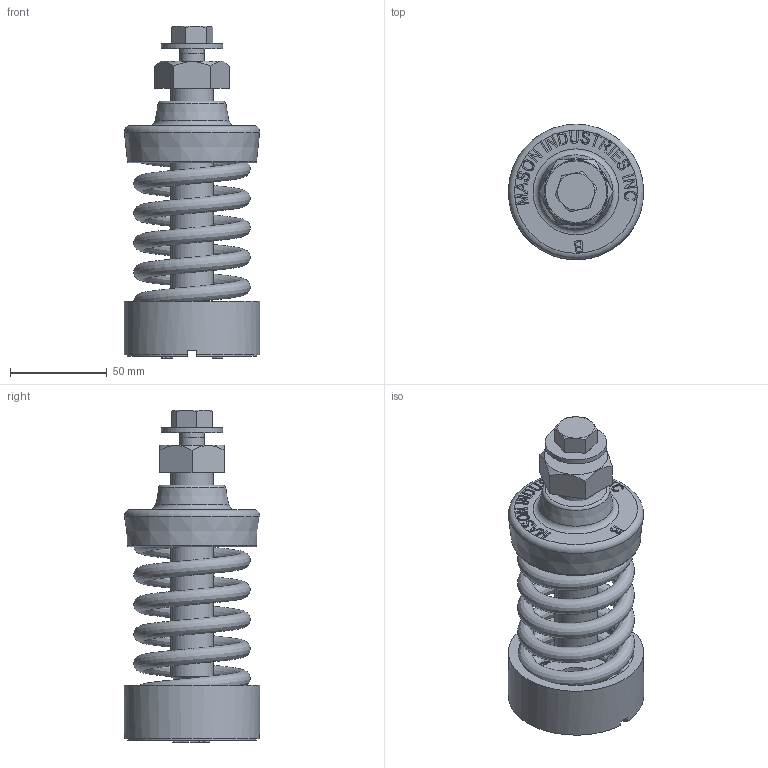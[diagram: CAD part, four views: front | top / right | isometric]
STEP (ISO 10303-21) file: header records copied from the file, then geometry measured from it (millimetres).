
FILE_DESCRIPTION(/* description */ (''),/* implementation_level */ '2;1');
FILE_NAME(/* name */ 'C:\2014_Work\Designs\SLF-B-450.stp',/* time_stamp */ '2014-05-01T21:35:57-04:00',/* author */ ('mleuck'),/* organization */ (''),/* preprocessor_version */ 'ST-DEVELOPER v15.2',/* originating_system */ 'Autodesk Inventor 2014',/* authorisation */ '');
FILE_SCHEMA (('AUTOMOTIVE_DESIGN { 1 0 10303 214 3 1 1 }'));
Length unit declared in the file: inch
Products named in the file (10): A-19773-1 SLF-B TOP CASTING; ANSI_ASME B18.2.1 - 1_2-13 UNC - 1.25(2); ANSI B18.22.1 - 1_2 - Regular - Type B; A-19773-1 SLF-B ADJUSTMENT BOLT 4250 x 08750; A-9771-3 SLF-B LOWER CUP WASHER; A-9771-3 SLF-B LOWER CUP RUBBER; A-9771-3 SLF-B LOWER CUP; SLFB WOS ASSEMBLY PER A-21468; SPRING B-450 FH (RED); SLF-B-450
Bounding box: 69.85 x 69.85 x 171.33 mm (x, y, z)
Volume: 209132.9 mm3; surface area: 89802 mm2
Topology: 7 solids, 8 shells, 580 faces, 1510 edges, 1000 vertices
Faces by surface type: plane 373, bspline 163, cylinder 24, cone 14, torus 6
Full cylindrical faces by diameter (mm): 10.592 x1, 12.7 x1, 13.487 x1, 19.05 x1, 19.177 x1, 22.225 x2, 29.369 x2, 31.75 x1, 59.531 x1, 60.325 x2, 69.85 x1
Entity records: 21061 total; most frequent: CARTESIAN_POINT 7826, ORIENTED_EDGE 2950, DIRECTION 2081, EDGE_CURVE 1475, LINE 1045, VECTOR 1045, VERTEX_POINT 993, EDGE_LOOP 672
